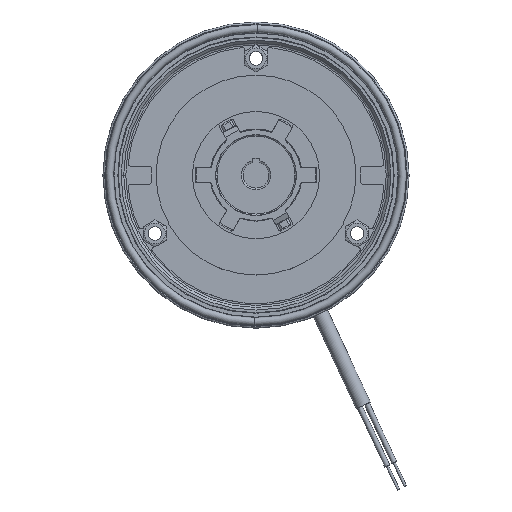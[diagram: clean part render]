
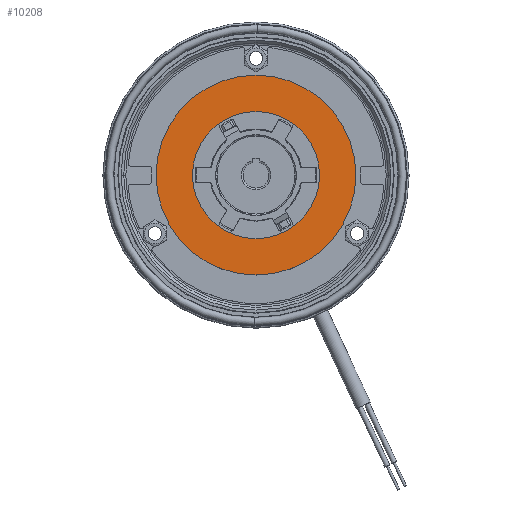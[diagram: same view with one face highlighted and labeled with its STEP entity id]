
A CAD part, top view. The second image highlights one B-rep face of the part: STEP entity #10208.
In plain terms, the highlighted planar face has unit normal (0, 0, 1).
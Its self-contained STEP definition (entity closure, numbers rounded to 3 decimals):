
#942 = AXIS2_PLACEMENT_3D ( 'NONE', #5254, #6791, #5423 ) ;
#2216 = VERTEX_POINT ( 'NONE', #12520 ) ;
#2230 = DIRECTION ( 'NONE',  ( 1., 0., 0. ) ) ;
#2350 = CARTESIAN_POINT ( 'NONE',  ( 24.5, 0., 4. ) ) ;
#2931 = CARTESIAN_POINT ( 'NONE',  ( 0., 0., 4. ) ) ;
#3165 = DIRECTION ( 'NONE',  ( 0., 0., -1. ) ) ;
#3885 = ORIENTED_EDGE ( 'NONE', *, *, #12959, .F. ) ;
#4104 = AXIS2_PLACEMENT_3D ( 'NONE', #13655, #13920, #12299 ) ;
#4750 = VERTEX_POINT ( 'NONE', #16703 ) ;
#4756 = EDGE_CURVE ( 'NONE', #14784, #16545, #14993, .T. ) ;
#4795 = DIRECTION ( 'NONE',  ( -1., 0., 0. ) ) ;
#5126 = FACE_OUTER_BOUND ( 'NONE', #9146, .T. ) ;
#5254 = CARTESIAN_POINT ( 'NONE',  ( 0., 0., 4. ) ) ;
#5423 = DIRECTION ( 'NONE',  ( -1., 0., 0. ) ) ;
#5466 = ORIENTED_EDGE ( 'NONE', *, *, #4756, .F. ) ;
#6067 = CARTESIAN_POINT ( 'NONE',  ( 0., 0., 4. ) ) ;
#6791 = DIRECTION ( 'NONE',  ( 0., 0., -1. ) ) ;
#6931 = EDGE_CURVE ( 'NONE', #4750, #2216, #8720, .T. ) ;
#7118 = DIRECTION ( 'NONE',  ( 0., 0., 1. ) ) ;
#7206 = EDGE_CURVE ( 'NONE', #16545, #14784, #12527, .T. ) ;
#7392 = CARTESIAN_POINT ( 'NONE',  ( -24.5, 0., 4. ) ) ;
#7565 = DIRECTION ( 'NONE',  ( 1., 0., 0. ) ) ;
#7596 = EDGE_LOOP ( 'NONE', ( #9284, #5466 ) ) ;
#8720 = CIRCLE ( 'NONE', #942, 38.5 ) ;
#9146 = EDGE_LOOP ( 'NONE', ( #9230, #3885 ) ) ;
#9230 = ORIENTED_EDGE ( 'NONE', *, *, #6931, .F. ) ;
#9284 = ORIENTED_EDGE ( 'NONE', *, *, #7206, .F. ) ;
#10208 = ADVANCED_FACE ( 'NONE', ( #5126, #10398 ), #10676, .T. ) ;
#10398 = FACE_BOUND ( 'NONE', #7596, .T. ) ;
#10676 = PLANE ( 'NONE',  #15512 ) ;
#10939 = AXIS2_PLACEMENT_3D ( 'NONE', #2931, #7118, #7565 ) ;
#12299 = DIRECTION ( 'NONE',  ( 1., 0., 0. ) ) ;
#12520 = CARTESIAN_POINT ( 'NONE',  ( 38.5, 0., 4. ) ) ;
#12527 = CIRCLE ( 'NONE', #4104, 24.5 ) ;
#12959 = EDGE_CURVE ( 'NONE', #2216, #4750, #17835, .T. ) ;
#13463 = DIRECTION ( 'NONE',  ( 0., 0., 1. ) ) ;
#13655 = CARTESIAN_POINT ( 'NONE',  ( 0., 0., 4. ) ) ;
#13920 = DIRECTION ( 'NONE',  ( 0., 0., 1. ) ) ;
#14650 = CARTESIAN_POINT ( 'NONE',  ( 0., 38.5, 4. ) ) ;
#14700 = AXIS2_PLACEMENT_3D ( 'NONE', #6067, #3165, #4795 ) ;
#14784 = VERTEX_POINT ( 'NONE', #2350 ) ;
#14993 = CIRCLE ( 'NONE', #10939, 24.5 ) ;
#15512 = AXIS2_PLACEMENT_3D ( 'NONE', #14650, #13463, #2230 ) ;
#16545 = VERTEX_POINT ( 'NONE', #7392 ) ;
#16703 = CARTESIAN_POINT ( 'NONE',  ( -38.5, 0., 4. ) ) ;
#17835 = CIRCLE ( 'NONE', #14700, 38.5 ) ;
